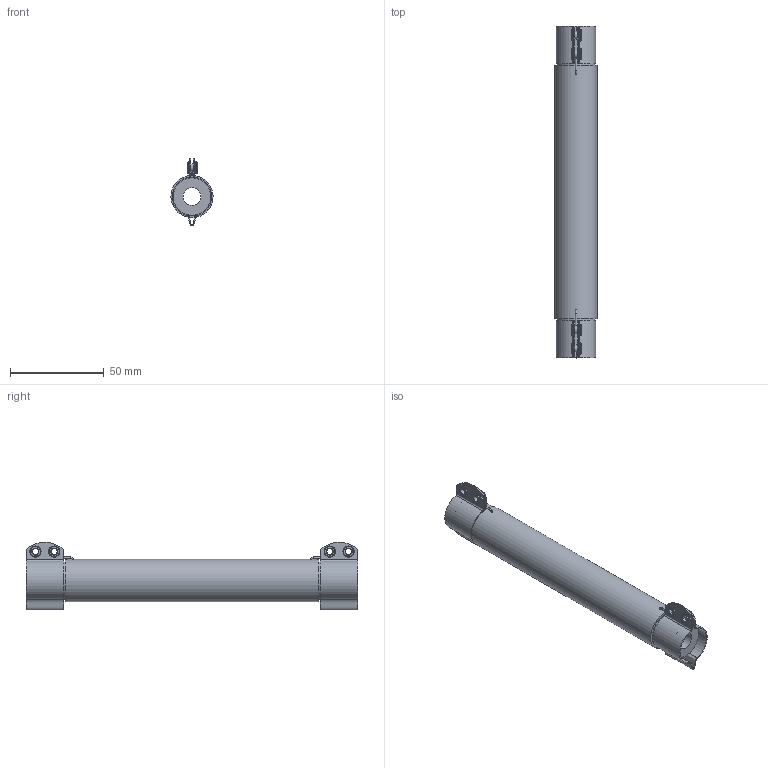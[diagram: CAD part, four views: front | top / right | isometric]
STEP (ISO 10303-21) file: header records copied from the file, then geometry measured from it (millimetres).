
FILE_DESCRIPTION(/* description */ (''),/* implementation_level */ '2;1');
FILE_NAME(/* name */ 'C:\_Vault\Dati\CATALOGO\RC-RS\TF\RS1110.stp',/* time_stamp */ '2014-01-29T14:38:56+01:00',/* author */ ('stefano'),/* organization */ (''),/* preprocessor_version */ 'ST-DEVELOPER v15.2',/* originating_system */ 'Autodesk Inventor 2014',/* authorisation */ '');
FILE_SCHEMA (('AUTOMOTIVE_DESIGN { 1 0 10303 214 3 1 1 }'));
Length unit declared in the file: millimetre
Products named in the file (1): RS1110
Bounding box: 22.48 x 177 x 35.96 mm (x, y, z)
Volume: 53311.8 mm3; surface area: 21727.3 mm2
Topology: 1 solids, 5 shells, 122 faces, 285 edges, 185 vertices
Faces by surface type: cylinder 52, plane 44, torus 18, bspline 8
Full cylindrical faces by diameter (mm): 0.4 x2, 0.8 x4, 3.2 x4, 4.2 x8, 6 x8, 9.5 x1, 20 x2, 22.5 x1
Entity records: 3923 total; most frequent: CARTESIAN_POINT 1123, DIRECTION 554, ORIENTED_EDGE 456, AXIS2_PLACEMENT_3D 239, EDGE_CURVE 228, EDGE_LOOP 208, VERTEX_POINT 176, CIRCLE 124
